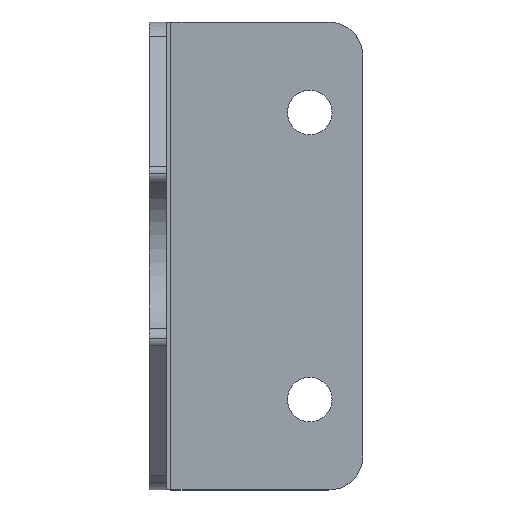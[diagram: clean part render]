
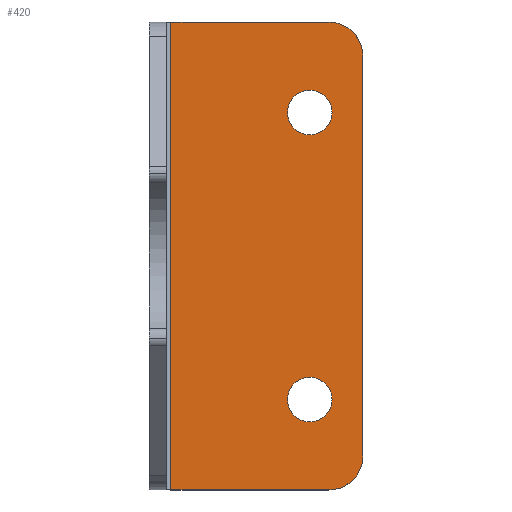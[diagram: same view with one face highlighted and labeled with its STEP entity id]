
A CAD part, top view. The second image highlights one B-rep face of the part: STEP entity #420.
In plain terms, the highlighted planar face has unit normal (0, 0, 1).
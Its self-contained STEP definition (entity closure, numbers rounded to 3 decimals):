
#62=CARTESIAN_POINT('Vertex',(75.5,-78.,7.)) ;
#65=CARTESIAN_POINT('Axis2P3D Location',(75.5,-67.5,7.)) ;
#69=CARTESIAN_POINT('Vertex',(86.,-67.5,7.)) ;
#103=CARTESIAN_POINT('Axis2P3D Location',(75.5,-67.5,7.)) ;
#107=CARTESIAN_POINT('Vertex',(75.5,-57.,7.)) ;
#122=CARTESIAN_POINT('Axis2P3D Location',(75.5,-67.5,7.)) ;
#126=CARTESIAN_POINT('Vertex',(65.,-67.5,7.)) ;
#153=CARTESIAN_POINT('Axis2P3D Location',(75.5,-67.5,7.)) ;
#270=CARTESIAN_POINT('Vertex',(86.,67.5,7.)) ;
#273=CARTESIAN_POINT('Axis2P3D Location',(75.5,67.5,7.)) ;
#277=CARTESIAN_POINT('Vertex',(75.5,78.,7.)) ;
#301=CARTESIAN_POINT('Vertex',(75.5,57.,7.)) ;
#304=CARTESIAN_POINT('Axis2P3D Location',(75.5,67.5,7.)) ;
#320=CARTESIAN_POINT('Vertex',(65.,67.5,7.)) ;
#323=CARTESIAN_POINT('Axis2P3D Location',(75.5,67.5,7.)) ;
#335=CARTESIAN_POINT('Axis2P3D Location',(75.5,67.5,7.)) ;
#347=CARTESIAN_POINT('Axis2P3D Location',(0.,0.,7.)) ;
#353=CARTESIAN_POINT('Control Point',(84.5,-110.,7.)) ;
#354=CARTESIAN_POINT('Control Point',(89.527,-110.,7.)) ;
#355=CARTESIAN_POINT('Control Point',(94.558,-108.032,7.)) ;
#356=CARTESIAN_POINT('Control Point',(98.532,-104.058,7.)) ;
#357=CARTESIAN_POINT('Control Point',(100.5,-99.027,7.)) ;
#358=CARTESIAN_POINT('Control Point',(100.5,-94.,7.)) ;
#359=CARTESIAN_POINT('Vertex',(84.5,-110.,7.)) ;
#361=CARTESIAN_POINT('Vertex',(100.5,-94.,7.)) ;
#364=CARTESIAN_POINT('Line Origine',(100.5,0.,7.)) ;
#368=CARTESIAN_POINT('Vertex',(100.5,94.,7.)) ;
#372=CARTESIAN_POINT('Control Point',(100.5,94.,7.)) ;
#373=CARTESIAN_POINT('Control Point',(100.5,99.027,7.)) ;
#374=CARTESIAN_POINT('Control Point',(98.532,104.058,7.)) ;
#375=CARTESIAN_POINT('Control Point',(94.558,108.032,7.)) ;
#376=CARTESIAN_POINT('Control Point',(89.527,110.,7.)) ;
#377=CARTESIAN_POINT('Control Point',(84.5,110.,7.)) ;
#378=CARTESIAN_POINT('Vertex',(84.5,110.,7.)) ;
#381=CARTESIAN_POINT('Line Origine',(56.625,110.,7.)) ;
#385=CARTESIAN_POINT('Vertex',(10.25,110.,7.)) ;
#388=CARTESIAN_POINT('Line Origine',(10.25,0.,7.)) ;
#392=CARTESIAN_POINT('Vertex',(10.25,-110.,7.)) ;
#395=CARTESIAN_POINT('Line Origine',(56.625,-110.,7.)) ;
#66=DIRECTION('Axis2P3D Direction',(0.,0.,1.)) ;
#104=DIRECTION('Axis2P3D Direction',(0.,0.,1.)) ;
#123=DIRECTION('Axis2P3D Direction',(0.,0.,1.)) ;
#154=DIRECTION('Axis2P3D Direction',(0.,0.,1.)) ;
#274=DIRECTION('Axis2P3D Direction',(0.,0.,1.)) ;
#305=DIRECTION('Axis2P3D Direction',(0.,0.,1.)) ;
#324=DIRECTION('Axis2P3D Direction',(0.,0.,1.)) ;
#336=DIRECTION('Axis2P3D Direction',(0.,0.,1.)) ;
#348=DIRECTION('Axis2P3D Direction',(0.,0.,1.)) ;
#349=DIRECTION('Axis2P3D XDirection',(0.,-1.,0.)) ;
#365=DIRECTION('Vector Direction',(0.,-1.,0.)) ;
#382=DIRECTION('Vector Direction',(1.,0.,0.)) ;
#389=DIRECTION('Vector Direction',(0.,-1.,0.)) ;
#396=DIRECTION('Vector Direction',(1.,0.,0.)) ;
#67=AXIS2_PLACEMENT_3D('Circle Axis2P3D',#65,#66,$) ;
#105=AXIS2_PLACEMENT_3D('Circle Axis2P3D',#103,#104,$) ;
#124=AXIS2_PLACEMENT_3D('Circle Axis2P3D',#122,#123,$) ;
#155=AXIS2_PLACEMENT_3D('Circle Axis2P3D',#153,#154,$) ;
#275=AXIS2_PLACEMENT_3D('Circle Axis2P3D',#273,#274,$) ;
#306=AXIS2_PLACEMENT_3D('Circle Axis2P3D',#304,#305,$) ;
#325=AXIS2_PLACEMENT_3D('Circle Axis2P3D',#323,#324,$) ;
#337=AXIS2_PLACEMENT_3D('Circle Axis2P3D',#335,#336,$) ;
#350=AXIS2_PLACEMENT_3D('Plane Axis2P3D',#347,#348,#349) ;
#401=ORIENTED_EDGE('',*,*,#363,.T.) ;
#402=ORIENTED_EDGE('',*,*,#370,.F.) ;
#403=ORIENTED_EDGE('',*,*,#380,.T.) ;
#404=ORIENTED_EDGE('',*,*,#387,.T.) ;
#405=ORIENTED_EDGE('',*,*,#394,.F.) ;
#406=ORIENTED_EDGE('',*,*,#399,.F.) ;
#409=ORIENTED_EDGE('',*,*,#71,.F.) ;
#410=ORIENTED_EDGE('',*,*,#157,.F.) ;
#411=ORIENTED_EDGE('',*,*,#128,.F.) ;
#412=ORIENTED_EDGE('',*,*,#109,.F.) ;
#415=ORIENTED_EDGE('',*,*,#308,.F.) ;
#416=ORIENTED_EDGE('',*,*,#327,.F.) ;
#417=ORIENTED_EDGE('',*,*,#339,.F.) ;
#418=ORIENTED_EDGE('',*,*,#279,.F.) ;
#413=FACE_BOUND('',#408,.T.) ;
#419=FACE_BOUND('',#414,.T.) ;
#366=VECTOR('Line Direction',#365,1.) ;
#383=VECTOR('Line Direction',#382,1.) ;
#390=VECTOR('Line Direction',#389,1.) ;
#397=VECTOR('Line Direction',#396,1.) ;
#420=ADVANCED_FACE('PartBody',(#407,#413,#419),#351,.T.) ;
#352=B_SPLINE_CURVE_WITH_KNOTS('',5,(#353,#354,#355,#356,#357,#358),.UNSPECIFIED.,.F.,.U.,(6,6),(0.,25.133),.UNSPECIFIED.) ;
#371=B_SPLINE_CURVE_WITH_KNOTS('',5,(#372,#373,#374,#375,#376,#377),.UNSPECIFIED.,.F.,.U.,(6,6),(25.133,50.265),.UNSPECIFIED.) ;
#68=CIRCLE('generated circle',#67,10.5) ;
#106=CIRCLE('generated circle',#105,10.5) ;
#125=CIRCLE('generated circle',#124,10.5) ;
#156=CIRCLE('generated circle',#155,10.5) ;
#276=CIRCLE('generated circle',#275,10.5) ;
#307=CIRCLE('generated circle',#306,10.5) ;
#326=CIRCLE('generated circle',#325,10.5) ;
#338=CIRCLE('generated circle',#337,10.5) ;
#71=EDGE_CURVE('',#63,#70,#68,.T.) ;
#109=EDGE_CURVE('',#70,#108,#106,.T.) ;
#128=EDGE_CURVE('',#108,#127,#125,.T.) ;
#157=EDGE_CURVE('',#127,#63,#156,.T.) ;
#279=EDGE_CURVE('',#271,#278,#276,.T.) ;
#308=EDGE_CURVE('',#302,#271,#307,.T.) ;
#327=EDGE_CURVE('',#321,#302,#326,.T.) ;
#339=EDGE_CURVE('',#278,#321,#338,.T.) ;
#363=EDGE_CURVE('',#360,#362,#352,.T.) ;
#370=EDGE_CURVE('',#369,#362,#367,.T.) ;
#380=EDGE_CURVE('',#369,#379,#371,.T.) ;
#387=EDGE_CURVE('',#379,#386,#384,.F.) ;
#394=EDGE_CURVE('',#393,#386,#391,.F.) ;
#399=EDGE_CURVE('',#360,#393,#398,.F.) ;
#400=EDGE_LOOP('',(#401,#402,#403,#404,#405,#406)) ;
#408=EDGE_LOOP('',(#409,#410,#411,#412)) ;
#414=EDGE_LOOP('',(#415,#416,#417,#418)) ;
#407=FACE_OUTER_BOUND('',#400,.T.) ;
#367=LINE('Line',#364,#366) ;
#384=LINE('Line',#381,#383) ;
#391=LINE('Line',#388,#390) ;
#398=LINE('Line',#395,#397) ;
#351=PLANE('',#350) ;
#63=VERTEX_POINT('',#62) ;
#70=VERTEX_POINT('',#69) ;
#108=VERTEX_POINT('',#107) ;
#127=VERTEX_POINT('',#126) ;
#271=VERTEX_POINT('',#270) ;
#278=VERTEX_POINT('',#277) ;
#302=VERTEX_POINT('',#301) ;
#321=VERTEX_POINT('',#320) ;
#360=VERTEX_POINT('',#359) ;
#362=VERTEX_POINT('',#361) ;
#369=VERTEX_POINT('',#368) ;
#379=VERTEX_POINT('',#378) ;
#386=VERTEX_POINT('',#385) ;
#393=VERTEX_POINT('',#392) ;
